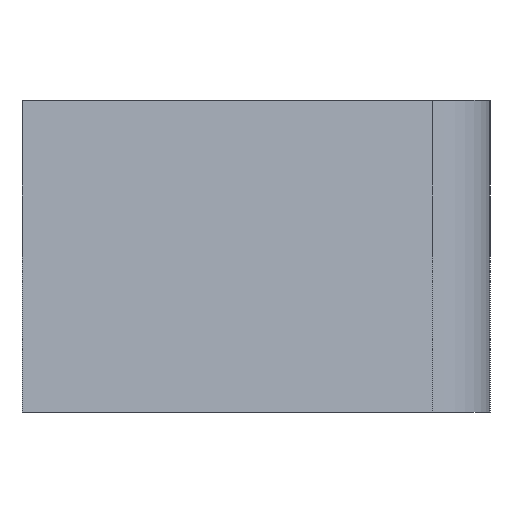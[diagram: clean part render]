
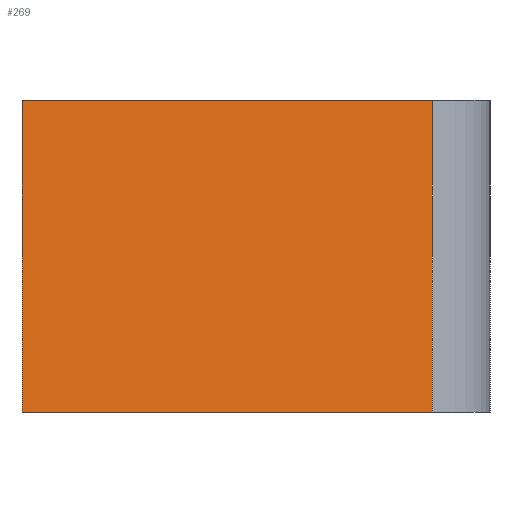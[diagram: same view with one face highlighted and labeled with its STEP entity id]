
A CAD part, left-side view. The second image highlights one B-rep face of the part: STEP entity #269.
In plain terms, the highlighted planar face has unit normal (-0.966, -0.258, 0).
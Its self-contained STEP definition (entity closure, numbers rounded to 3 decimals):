
#137 = VERTEX_POINT( '', #356 );
#191 = VERTEX_POINT( '', #417 );
#229 = VERTEX_POINT( '', #458 );
#269 = ADVANCED_FACE( '', ( #502 ), #503, .T. );
#283 = EDGE_CURVE( '', #301, #229, #518, .T. );
#293 = EDGE_CURVE( '', #137, #229, #528, .T. );
#297 = EDGE_CURVE( '', #191, #301, #532, .T. );
#301 = VERTEX_POINT( '', #537 );
#315 = EDGE_CURVE( '', #191, #137, #553, .T. );
#356 = CARTESIAN_POINT( '', ( -0.99, -26.288, 10. ) );
#417 = CARTESIAN_POINT( '', ( -8., 0., 10. ) );
#458 = CARTESIAN_POINT( '', ( -0.99, -26.288, -10. ) );
#502 = FACE_OUTER_BOUND( '', #779, .T. );
#503 = PLANE( '', #780 );
#518 = LINE( '', #800, #801 );
#528 = LINE( '', #818, #819 );
#532 = LINE( '', #826, #827 );
#537 = CARTESIAN_POINT( '', ( -8., 0., -10. ) );
#553 = LINE( '', #853, #854 );
#779 = EDGE_LOOP( '', ( #1044, #1045, #1046, #1047 ) );
#780 = AXIS2_PLACEMENT_3D( '', #1048, #1049, #1050 );
#800 = CARTESIAN_POINT( '', ( -8., 0., -10. ) );
#801 = VECTOR( '', #1064, 1. );
#818 = CARTESIAN_POINT( '', ( -0.99, -26.288, 10. ) );
#819 = VECTOR( '', #1073, 1. );
#826 = CARTESIAN_POINT( '', ( -8., 0., 10. ) );
#827 = VECTOR( '', #1075, 1. );
#853 = CARTESIAN_POINT( '', ( -8., 0., 10. ) );
#854 = VECTOR( '', #1107, 1. );
#1044 = ORIENTED_EDGE( '', *, *, #283, .T. );
#1045 = ORIENTED_EDGE( '', *, *, #293, .F. );
#1046 = ORIENTED_EDGE( '', *, *, #315, .F. );
#1047 = ORIENTED_EDGE( '', *, *, #297, .T. );
#1048 = CARTESIAN_POINT( '', ( -8., 0., 10. ) );
#1049 = DIRECTION( '', ( -0.966, -0.258, 0. ) );
#1050 = DIRECTION( '', ( -0.258, 0.966, 0. ) );
#1064 = DIRECTION( '', ( 0.258, -0.966, 0. ) );
#1073 = DIRECTION( '', ( 0., 0., -1. ) );
#1075 = DIRECTION( '', ( 0., 0., -1. ) );
#1107 = DIRECTION( '', ( 0.258, -0.966, 0. ) );
